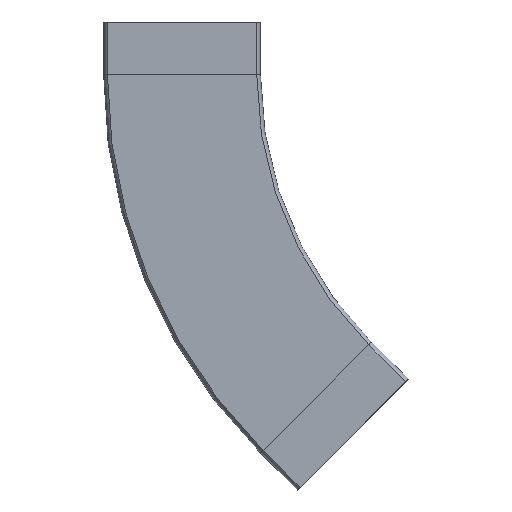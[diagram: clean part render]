
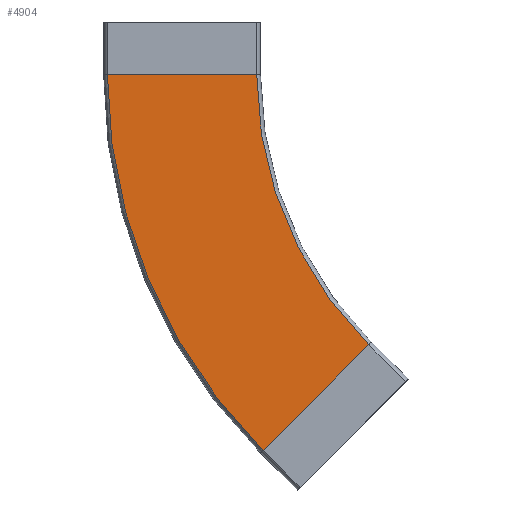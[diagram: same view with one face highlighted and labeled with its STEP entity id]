
A CAD part, front view. The second image highlights one B-rep face of the part: STEP entity #4904.
In plain terms, the highlighted planar face has unit normal (0, -1, 0).
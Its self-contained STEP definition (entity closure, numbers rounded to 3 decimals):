
#661 = VECTOR ( 'NONE', #877, 1000. ) ;
#822 = VERTEX_POINT ( 'NONE', #1959 ) ;
#863 = CARTESIAN_POINT ( 'NONE',  ( 0., -56.5, -40. ) ) ;
#877 = DIRECTION ( 'NONE',  ( -1., 0., 0. ) ) ;
#1103 = CARTESIAN_POINT ( 'NONE',  ( 350., -56.5, -40. ) ) ;
#1132 = CARTESIAN_POINT ( 'NONE',  ( 142.924, -56.5, -247.076 ) ) ;
#1257 = DIRECTION ( 'NONE',  ( 0., 1., 0. ) ) ;
#1405 = ORIENTED_EDGE ( 'NONE', *, *, #2840, .F. ) ;
#1596 = DIRECTION ( 'NONE',  ( 0., 1., 0. ) ) ;
#1763 = LINE ( 'NONE', #863, #661 ) ;
#1861 = CARTESIAN_POINT ( 'NONE',  ( 62.101, -56.5, -327.899 ) ) ;
#1959 = CARTESIAN_POINT ( 'NONE',  ( 57.15, -56.5, -40. ) ) ;
#1992 = ORIENTED_EDGE ( 'NONE', *, *, #2330, .T. ) ;
#2133 = CARTESIAN_POINT ( 'NONE',  ( 142.924, -56.5, -247.076 ) ) ;
#2330 = EDGE_CURVE ( 'NONE', #3135, #3461, #2483, .T. ) ;
#2483 = LINE ( 'NONE', #1132, #2745 ) ;
#2550 = PLANE ( 'NONE',  #4332 ) ;
#2745 = VECTOR ( 'NONE', #3748, 1000. ) ;
#2840 = EDGE_CURVE ( 'NONE', #3135, #5372, #5012, .T. ) ;
#3000 = CARTESIAN_POINT ( 'NONE',  ( 142.924, -56.5, -247.076 ) ) ;
#3135 = VERTEX_POINT ( 'NONE', #1861 ) ;
#3417 = CIRCLE ( 'NONE', #5022, 292.85 ) ;
#3461 = VERTEX_POINT ( 'NONE', #2133 ) ;
#3659 = DIRECTION ( 'NONE',  ( 0., 0., 1. ) ) ;
#3748 = DIRECTION ( 'NONE',  ( 0.707, 0., 0.707 ) ) ;
#3803 = DIRECTION ( 'NONE',  ( 0., 0., 1. ) ) ;
#4140 = CARTESIAN_POINT ( 'NONE',  ( -57.15, -56.5, -40. ) ) ;
#4226 = CARTESIAN_POINT ( 'NONE',  ( 350., -56.5, -40. ) ) ;
#4332 = AXIS2_PLACEMENT_3D ( 'NONE', #3000, #1257, #4762 ) ;
#4339 = ORIENTED_EDGE ( 'NONE', *, *, #5455, .T. ) ;
#4495 = AXIS2_PLACEMENT_3D ( 'NONE', #4226, #1596, #3803 ) ;
#4642 = ORIENTED_EDGE ( 'NONE', *, *, #5141, .T. ) ;
#4762 = DIRECTION ( 'NONE',  ( 0., 0., 1. ) ) ;
#4904 = ADVANCED_FACE ( 'NONE', ( #5204 ), #2550, .F. ) ;
#4975 = DIRECTION ( 'NONE',  ( 0., 1., 0. ) ) ;
#5012 = CIRCLE ( 'NONE', #4495, 407.15 ) ;
#5022 = AXIS2_PLACEMENT_3D ( 'NONE', #1103, #4975, #3659 ) ;
#5141 = EDGE_CURVE ( 'NONE', #822, #5372, #1763, .T. ) ;
#5154 = EDGE_LOOP ( 'NONE', ( #4642, #1405, #1992, #4339 ) ) ;
#5204 = FACE_OUTER_BOUND ( 'NONE', #5154, .T. ) ;
#5372 = VERTEX_POINT ( 'NONE', #4140 ) ;
#5455 = EDGE_CURVE ( 'NONE', #3461, #822, #3417, .T. ) ;
